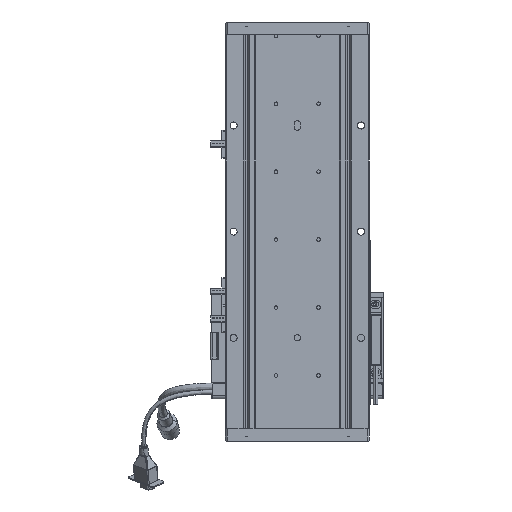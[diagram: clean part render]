
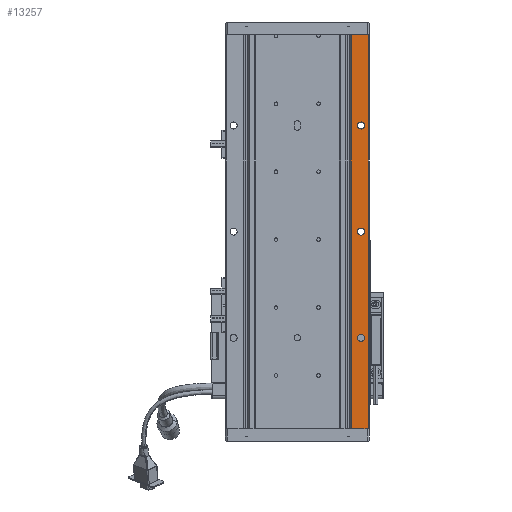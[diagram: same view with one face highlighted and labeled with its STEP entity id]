
A CAD part, front view. The second image highlights one B-rep face of the part: STEP entity #13257.
In plain terms, the highlighted planar face has unit normal (0, -1, 0).
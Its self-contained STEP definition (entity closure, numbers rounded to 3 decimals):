
#347 = VECTOR ( 'NONE', #30399, 1000. ) ;
#468 = FACE_BOUND ( 'NONE', #28593, .T. ) ;
#1159 = ORIENTED_EDGE ( 'NONE', *, *, #47592, .T. ) ;
#1989 = CIRCLE ( 'NONE', #45373, 3.3 ) ;
#2084 = CARTESIAN_POINT ( 'NONE',  ( 3187.99, 1428.268, 371. ) ) ;
#2665 = CIRCLE ( 'NONE', #32451, 3.3 ) ;
#3917 = CIRCLE ( 'NONE', #16543, 3.3 ) ;
#4759 = CARTESIAN_POINT ( 'NONE',  ( 3317.768, 1428.268, 371. ) ) ;
#5602 = EDGE_CURVE ( 'NONE', #50191, #32731, #59118, .T. ) ;
#6297 = CARTESIAN_POINT ( 'NONE',  ( 3187.99, 1428.268, 0. ) ) ;
#6971 = ORIENTED_EDGE ( 'NONE', *, *, #14055, .F. ) ;
#7589 = FACE_BOUND ( 'NONE', #55892, .T. ) ;
#8928 = CARTESIAN_POINT ( 'NONE',  ( 3329.68, 1428.268, 0. ) ) ;
#9194 = ORIENTED_EDGE ( 'NONE', *, *, #34412, .F. ) ;
#9810 = VERTEX_POINT ( 'NONE', #22375 ) ;
#11462 = DIRECTION ( 'NONE',  ( 0., 1., 0. ) ) ;
#11564 = VECTOR ( 'NONE', #13349, 1000. ) ;
#11620 = CARTESIAN_POINT ( 'NONE',  ( 3326.78, 1428.268, 188.8 ) ) ;
#11646 = VERTEX_POINT ( 'NONE', #37780 ) ;
#12226 = DIRECTION ( 'NONE',  ( -1., 0., 0. ) ) ;
#13257 = ADVANCED_FACE ( 'NONE', ( #468, #24933, #7589, #43106 ), #30987, .F. ) ;
#13349 = DIRECTION ( 'NONE',  ( -1., 0., 0. ) ) ;
#13559 = DIRECTION ( 'NONE',  ( 0., 1., 0. ) ) ;
#14055 = EDGE_CURVE ( 'NONE', #11646, #46556, #31928, .T. ) ;
#14674 = VERTEX_POINT ( 'NONE', #57145 ) ;
#15044 = VERTEX_POINT ( 'NONE', #64889 ) ;
#16543 = AXIS2_PLACEMENT_3D ( 'NONE', #57440, #11462, #42349 ) ;
#18207 = EDGE_LOOP ( 'NONE', ( #9194, #55306, #60487, #6971 ) ) ;
#18293 = DIRECTION ( 'NONE',  ( 0., 1., 0. ) ) ;
#18561 = ORIENTED_EDGE ( 'NONE', *, *, #58415, .T. ) ;
#18689 = EDGE_LOOP ( 'NONE', ( #1159, #58727 ) ) ;
#19857 = CARTESIAN_POINT ( 'NONE',  ( 3317.768, 1428.268, 371. ) ) ;
#22375 = CARTESIAN_POINT ( 'NONE',  ( 3326.78, 1428.268, 288.8 ) ) ;
#22699 = DIRECTION ( 'NONE',  ( 0., 0., 1. ) ) ;
#23065 = CARTESIAN_POINT ( 'NONE',  ( 3326.78, 1428.268, 285.5 ) ) ;
#23525 = CARTESIAN_POINT ( 'NONE',  ( 3333.53, 1428.268, 371. ) ) ;
#23909 = CARTESIAN_POINT ( 'NONE',  ( 3326.78, 1428.268, 185.5 ) ) ;
#24152 = CARTESIAN_POINT ( 'NONE',  ( 3333.53, 1428.268, 0. ) ) ;
#24933 = FACE_BOUND ( 'NONE', #18689, .T. ) ;
#26151 = DIRECTION ( 'NONE',  ( 0., 1., 0. ) ) ;
#27497 = DIRECTION ( 'NONE',  ( 0., 0., 1. ) ) ;
#28131 = DIRECTION ( 'NONE',  ( 0., 0., 1. ) ) ;
#28593 = EDGE_LOOP ( 'NONE', ( #54573, #18561 ) ) ;
#29023 = ORIENTED_EDGE ( 'NONE', *, *, #50278, .T. ) ;
#30399 = DIRECTION ( 'NONE',  ( 0., 0., 1. ) ) ;
#30987 = PLANE ( 'NONE',  #38728 ) ;
#31925 = LINE ( 'NONE', #2084, #50197 ) ;
#31928 = LINE ( 'NONE', #19857, #347 ) ;
#32277 = AXIS2_PLACEMENT_3D ( 'NONE', #50305, #39831, #60289 ) ;
#32451 = AXIS2_PLACEMENT_3D ( 'NONE', #37395, #52078, #27497 ) ;
#32731 = VERTEX_POINT ( 'NONE', #24152 ) ;
#33949 = CIRCLE ( 'NONE', #46545, 3.3 ) ;
#34298 = EDGE_CURVE ( 'NONE', #9810, #48805, #54273, .T. ) ;
#34412 = EDGE_CURVE ( 'NONE', #32731, #11646, #39130, .T. ) ;
#35962 = EDGE_CURVE ( 'NONE', #50191, #46556, #31925, .T. ) ;
#37395 = CARTESIAN_POINT ( 'NONE',  ( 3326.78, 1428.268, 85.5 ) ) ;
#37780 = CARTESIAN_POINT ( 'NONE',  ( 3317.768, 1428.268, 0. ) ) ;
#38662 = DIRECTION ( 'NONE',  ( 0., 0., 1. ) ) ;
#38728 = AXIS2_PLACEMENT_3D ( 'NONE', #6297, #26151, #61594 ) ;
#39130 = LINE ( 'NONE', #8928, #11564 ) ;
#39831 = DIRECTION ( 'NONE',  ( 0., 1., 0. ) ) ;
#40442 = CIRCLE ( 'NONE', #32277, 3.3 ) ;
#42349 = DIRECTION ( 'NONE',  ( 0., 0., 1. ) ) ;
#42750 = CARTESIAN_POINT ( 'NONE',  ( 3326.78, 1428.268, 82.2 ) ) ;
#42786 = CARTESIAN_POINT ( 'NONE',  ( 3333.53, 1428.268, 371. ) ) ;
#43106 = FACE_OUTER_BOUND ( 'NONE', #18207, .T. ) ;
#43394 = DIRECTION ( 'NONE',  ( 0., 0., -1. ) ) ;
#43433 = CARTESIAN_POINT ( 'NONE',  ( 3326.78, 1428.268, 185.5 ) ) ;
#45373 = AXIS2_PLACEMENT_3D ( 'NONE', #43433, #18293, #22699 ) ;
#46545 = AXIS2_PLACEMENT_3D ( 'NONE', #23909, #13559, #38662 ) ;
#46556 = VERTEX_POINT ( 'NONE', #4759 ) ;
#47592 = EDGE_CURVE ( 'NONE', #14674, #61370, #2665, .T. ) ;
#48547 = VERTEX_POINT ( 'NONE', #11620 ) ;
#48805 = VERTEX_POINT ( 'NONE', #56496 ) ;
#50191 = VERTEX_POINT ( 'NONE', #42786 ) ;
#50197 = VECTOR ( 'NONE', #12226, 1000. ) ;
#50278 = EDGE_CURVE ( 'NONE', #48547, #15044, #1989, .T. ) ;
#50305 = CARTESIAN_POINT ( 'NONE',  ( 3326.78, 1428.268, 85.5 ) ) ;
#51529 = EDGE_CURVE ( 'NONE', #61370, #14674, #40442, .T. ) ;
#52078 = DIRECTION ( 'NONE',  ( 0., 1., 0. ) ) ;
#53529 = VECTOR ( 'NONE', #43394, 1000. ) ;
#54273 = CIRCLE ( 'NONE', #61405, 3.3 ) ;
#54573 = ORIENTED_EDGE ( 'NONE', *, *, #34298, .T. ) ;
#55306 = ORIENTED_EDGE ( 'NONE', *, *, #5602, .F. ) ;
#55892 = EDGE_LOOP ( 'NONE', ( #29023, #63022 ) ) ;
#56496 = CARTESIAN_POINT ( 'NONE',  ( 3326.78, 1428.268, 282.2 ) ) ;
#57145 = CARTESIAN_POINT ( 'NONE',  ( 3326.78, 1428.268, 88.8 ) ) ;
#57440 = CARTESIAN_POINT ( 'NONE',  ( 3326.78, 1428.268, 285.5 ) ) ;
#57480 = EDGE_CURVE ( 'NONE', #15044, #48547, #33949, .T. ) ;
#58415 = EDGE_CURVE ( 'NONE', #48805, #9810, #3917, .T. ) ;
#58456 = DIRECTION ( 'NONE',  ( 0., 1., 0. ) ) ;
#58727 = ORIENTED_EDGE ( 'NONE', *, *, #51529, .T. ) ;
#59118 = LINE ( 'NONE', #23525, #53529 ) ;
#60289 = DIRECTION ( 'NONE',  ( 0., 0., 1. ) ) ;
#60487 = ORIENTED_EDGE ( 'NONE', *, *, #35962, .T. ) ;
#61370 = VERTEX_POINT ( 'NONE', #42750 ) ;
#61405 = AXIS2_PLACEMENT_3D ( 'NONE', #23065, #58456, #28131 ) ;
#61594 = DIRECTION ( 'NONE',  ( 0., 0., 1. ) ) ;
#63022 = ORIENTED_EDGE ( 'NONE', *, *, #57480, .T. ) ;
#64889 = CARTESIAN_POINT ( 'NONE',  ( 3326.78, 1428.268, 182.2 ) ) ;
